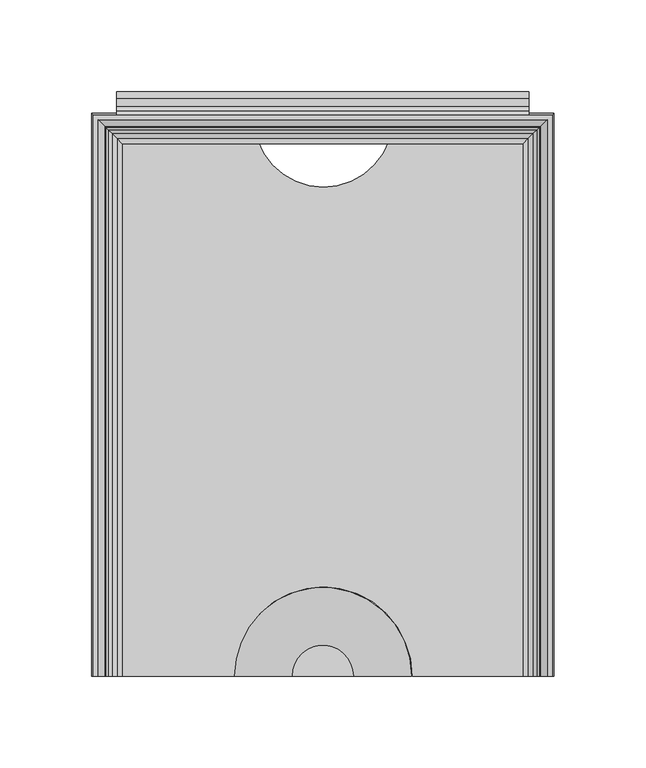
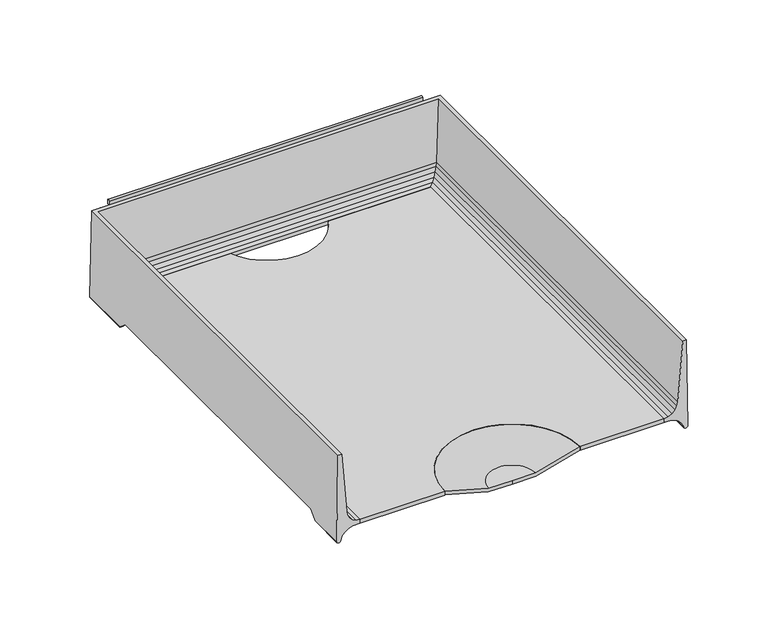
"""IFC4 building model written with IfcOpenShell, lengths in millimetres: furniture geometry."""

from ifc_helpers import new_model, si_unit, point, frame, frame_2d, origin, place, context, project, spatial, polyline, circle_curve, ellipse_curve, trimmed, segment, composite_curve, outline, extrude, source, transform, mapped, element, save
from ifc_brep_helpers import plane_surface, cylinder_surface, revolved_surface, advanced_brep


def furniture_a2665887(model_context):
    return source(origin(), model_context, "Body", "SolidModel", [
        advanced_brep(
        [(126.0820502, -154.0206082, 798.2007489), (125.1325529, -154.0206082, 863.6001914), (122.4547921, -154.0206082, 863.6001914), (118.8379747, -154.0206082, 818.8131003), (118.4123648, -154.0206082, 816.0796052), (117.0774354, -154.0206082, 813.3785664), (114.9656457, -154.0206082, 811.2296015), (112.28832, -154.0206082, 809.8477261), (109.3133381, -154.0206082, 809.3712052), (109.3133381, -154.0206082, 806.5490971), (114.5666739, -154.0206082, 806.3560987), (117.605351, -154.0206082, 805.2997218), (120.2416, -154.0206082, 803.4558822), (122.2762142, -154.0206082, 800.9639079), (123.1625518, -154.0206082, 797.9206655), (126.0820502, -127.6379698, 798.2007489), (126.0026181, -121.5231874, 803.671872), (126.0026181, 109.0611937, 803.671872), (126.0820502, 115.1759816, 798.2007489), (126.0820502, 153.036442, 798.2007489), (125.1325529, 152.0869447, 863.6001914), (-125.1325529, 152.0869447, 863.6001914), (-125.1325529, -154.0206082, 863.6001914), (-122.4547921, -154.0206082, 863.6001914), (-122.4547921, 149.4091839, 863.6001914), (122.4547921, 149.4091839, 863.6001914), (118.8379747, 145.7923665, 818.8131003), (118.4123648, 145.3667566, 816.0796052), (117.0774354, 144.0318272, 813.3785664), (114.9656457, 141.9200375, 811.2296015), (112.28832, 139.2427118, 809.8477261), (109.3133381, 136.2677299, 809.3712052), (109.3133381, 136.2677299, 806.5490971), (114.5666739, 141.5210656, 806.3560987), (117.605351, 144.5597428, 805.2997218), (120.2416, 147.1959918, 803.4558822), (120.2416, 109.3025941, 803.4558822), (119.9327864, 109.0611937, 803.671872), (119.9327864, -121.5231874, 803.671872), (120.2416, -121.7645876, 803.4558822), (122.2762142, -124.5497344, 800.9639079), (122.2762142, 149.230606, 800.9639079), (122.2762142, 112.0877435, 800.9639079), (123.1625518, -127.9510041, 797.9206655), (123.1625518, 150.1169436, 797.9206655), (123.1625518, 115.4890162, 797.9206655), (-126.0820502, 153.036442, 798.2007489), (-118.8379747, 145.7923665, 818.8131003), (-118.4123648, 145.3667566, 816.0796052), (-117.0774354, 144.0318272, 813.3785664), (-114.9656457, 141.9200375, 811.2296015), (-112.28832, 139.2427118, 809.8477261), (-109.3133381, 136.2677299, 809.3712052), (-109.3133381, 136.2677299, 806.5490971), (-114.5666739, 141.5210656, 806.3560987), (-117.605351, 144.5597428, 805.2997218), (-120.2416, 147.1959918, 803.4558822), (-122.2762142, 149.230606, 800.9639079), (-123.1625518, 150.1169436, 797.9206655), (-126.0820502, -154.0206082, 798.2007489), (-123.1625518, -154.0206082, 797.9206655), (-122.2762142, -154.0206082, 800.9639079), (-120.2416, -154.0206082, 803.4558822), (-117.605351, -154.0206082, 805.2997218), (-114.5666739, -154.0206082, 806.3560987), (-109.3133381, -154.0206082, 806.5490971), (-109.3133381, -154.0206082, 809.3712052), (-112.28832, -154.0206082, 809.8477261), (-114.9656457, -154.0206082, 811.2296015), (-117.0774354, -154.0206082, 813.3785664), (-118.4123648, -154.0206082, 816.0796052), (-118.8379747, -154.0206082, 818.8131003), (-126.0820502, 115.1759816, 798.2007489), (-126.0026181, 109.0611937, 803.671872), (-126.0026181, -121.5231874, 803.671872), (-126.0820502, -127.6379698, 798.2007489), (-120.2416, -121.7645876, 803.4558822), (-119.9327864, -121.5231874, 803.671872), (-119.9327864, 109.0611937, 803.671872), (-120.2416, 109.3025941, 803.4558822), (-122.2762142, 112.0877435, 800.9639079), (-122.2762142, -124.5497344, 800.9639079), (-123.1625518, 115.4890162, 797.9206655), (-123.1625518, -127.9510041, 797.9206655)],
        [
            (0, 1),
            (1, 2),
            (2, 3),
            (3, 4),
            (4, 5),
            (5, 6),
            (6, 7),
            (7, 8),
            (8, 9),
            (9, 10),
            (10, 11),
            (11, 12),
            (12, 13),
            (13, 14),
            (14, 0, circle_curve(frame((124.5859452, -154.0206082, 798.4396685), z_axis=(0.0, -1.0, 0.0), x_axis=(-1.0, 0.0, 0.0)), 1.515062)),
            (0, 15),
            (15, 16),
            (16, 17),
            (17, 18),
            (18, 19),
            (19, 20),
            (20, 1),
            (20, 21),
            (21, 22),
            (22, 23),
            (23, 24),
            (24, 25),
            (25, 2),
            (25, 26),
            (26, 3),
            (26, 27),
            (27, 4),
            (27, 28),
            (28, 5),
            (28, 29),
            (29, 6),
            (29, 30),
            (30, 7),
            (30, 31),
            (31, 8),
            (31, 32),
            (32, 9),
            (32, 33),
            (33, 10),
            (33, 34),
            (34, 11),
            (34, 35),
            (35, 36),
            (36, 37),
            (37, 38),
            (38, 39),
            (39, 12),
            (39, 40),
            (40, 13),
            (35, 41),
            (41, 42),
            (42, 36),
            (40, 43),
            (43, 14),
            (41, 44),
            (44, 45),
            (45, 42),
            (43, 15, ellipse_curve(frame((124.5859452, -127.3709422, 798.4396685), z_axis=(0.0, -0.6667949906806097, 0.7452411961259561), x_axis=(0.0, -0.7452411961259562, -0.6667949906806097)), 2.2721556, 1.515062)),
            (44, 19, ellipse_curve(frame((124.5859452, 151.540337, 798.4396685), z_axis=(0.7071067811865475, -0.7071067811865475, 0.0), x_axis=(-0.7071067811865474, -0.7071067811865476, 0.0)), 2.1426212, 1.515062)),
            (18, 45, ellipse_curve(frame((124.5859452, 114.9089538, 798.4396685), z_axis=(0.0, 0.6667946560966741, 0.7452414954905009), x_axis=(0.0, -0.7452414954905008, 0.6667946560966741)), 2.2721567, 1.515062)),
            (19, 46),
            (46, 21),
            (24, 47),
            (47, 26),
            (47, 48),
            (48, 27),
            (48, 49),
            (49, 28),
            (49, 50),
            (50, 29),
            (50, 51),
            (51, 30),
            (51, 52),
            (52, 31),
            (52, 53),
            (53, 32),
            (53, 54),
            (54, 33),
            (54, 55),
            (55, 34),
            (55, 56),
            (56, 35),
            (56, 57),
            (57, 41),
            (57, 58),
            (58, 44),
            (58, 46, ellipse_curve(frame((-124.5859452, 151.540337, 798.4396685), z_axis=(0.7071067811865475, 0.7071067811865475, 0.0), x_axis=(0.7071067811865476, -0.7071067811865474, 0.0)), 2.1426212, 1.515062)),
            (22, 59),
            (59, 60, circle_curve(frame((-124.5859452, -154.0206082, 798.4396685), z_axis=(0.0, -1.0, 0.0), x_axis=(1.0, 0.0, 0.0)), 1.515062)),
            (60, 61),
            (61, 62),
            (62, 63),
            (63, 64),
            (64, 65),
            (65, 66),
            (66, 67),
            (67, 68),
            (68, 69),
            (69, 70),
            (70, 71),
            (71, 23),
            (46, 72),
            (72, 73),
            (73, 74),
            (74, 75),
            (75, 59),
            (71, 47),
            (70, 48),
            (69, 49),
            (68, 50),
            (67, 51),
            (66, 52),
            (65, 53),
            (64, 54),
            (63, 55),
            (62, 76),
            (76, 77),
            (77, 78),
            (78, 79),
            (79, 56),
            (79, 80),
            (80, 57),
            (61, 81),
            (81, 76),
            (80, 82),
            (82, 58),
            (60, 83),
            (83, 81),
            (82, 72, ellipse_curve(frame((-124.5859452, 114.9089538, 798.4396685), z_axis=(0.0, 0.6667946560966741, 0.7452414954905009), x_axis=(0.0, 0.7452414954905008, -0.6667946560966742)), 2.2721567, 1.515062)),
            (75, 83, ellipse_curve(frame((-124.5859452, -127.3709422, 798.4396685), z_axis=(0.0, -0.6667949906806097, 0.7452411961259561), x_axis=(0.0, 0.745241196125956, 0.6667949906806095)), 2.2721556, 1.515062)),
            (38, 16),
            (74, 77),
            (37, 17),
            (73, 78),
        ],
        [
            plane_surface(frame((127.0, -154.0206082, 796.925), z_axis=(0.0, -1.0, 0.0), x_axis=(0.0, 0.0, 1.0))),
            plane_surface(frame((126.0820502, -154.0206082, 798.2007489), z_axis=(0.9998946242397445, 0.0, 0.014516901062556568), x_axis=(0.0, 1.0, 0.0))),
            plane_surface(frame((125.1325529, -154.0206082, 863.6001914), z_axis=(0.0, 0.0, 1.0), x_axis=(0.0, 1.0, 0.0))),
            plane_surface(frame((122.4547921, -154.0206082, 863.6001914), z_axis=(-0.9967551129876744, 0.0, 0.08049375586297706), x_axis=(0.0, 1.0, 0.0))),
            plane_surface(frame((118.8379747, -154.0206082, 818.8131003), z_axis=(-0.9880945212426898, 0.0, 0.15384803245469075), x_axis=(0.0, 1.0, 0.0))),
            plane_surface(frame((118.4123648, -154.0206082, 816.0796052), z_axis=(-0.8964873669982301, 0.0, 0.44306929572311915), x_axis=(0.0, 1.0, 0.0))),
            plane_surface(frame((117.0774354, -154.0206082, 813.3785664), z_axis=(-0.7132491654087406, 0.0, 0.7009105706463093), x_axis=(0.0, 1.0, 0.0))),
            plane_surface(frame((114.9656457, -154.0206082, 811.2296015), z_axis=(-0.45865074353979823, 0.0, 0.8886166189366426), x_axis=(0.0, 1.0, 0.0))),
            plane_surface(frame((112.28832, -154.0206082, 809.8477261), z_axis=(-0.15816001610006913, 0.0, 0.987413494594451), x_axis=(0.0, 1.0, 0.0))),
            plane_surface(frame((109.3133381, -154.0206082, 809.3712052), z_axis=(-1.0, 0.0, 0.0), x_axis=(0.0, 1.0, 0.0))),
            plane_surface(frame((109.3133381, -154.0206082, 806.5490971), z_axis=(-0.036713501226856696, 0.0, -0.9993258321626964), x_axis=(0.0, 1.0, 0.0))),
            plane_surface(frame((114.5666739, -154.0206082, 806.3560987), z_axis=(-0.3283669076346, 0.0, -0.9445502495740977), x_axis=(0.0, 1.0, 0.0))),
            plane_surface(frame((117.605351, -154.0206082, 805.2997218), z_axis=(-0.5731421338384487, 0.0, -0.819455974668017), x_axis=(0.0, 1.0, 0.0))),
            plane_surface(frame((120.2416, -154.0206082, 803.4558822), z_axis=(-0.77460799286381, 0.0, -0.6324416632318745), x_axis=(0.0, 1.0, 0.0))),
            plane_surface(frame((122.2762142, -154.0206082, 800.9639079), z_axis=(-0.9601080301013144, 0.0, -0.2796293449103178), x_axis=(0.0, 1.0, 0.0))),
            cylinder_surface(frame((124.5859452, -154.0206082, 798.4396685), z_axis=(0.0, -1.0, 0.0), x_axis=(-1.0, 0.0, 0.0)), 1.515062),
            plane_surface(frame((126.0820502, 153.036442, 798.2007489), z_axis=(0.0, 0.9998946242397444, 0.014516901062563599), x_axis=(-1.0, 0.0, 0.0))),
            plane_surface(frame((122.4547921, 149.4091839, 863.6001914), z_axis=(0.0, -0.9967551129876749, 0.08049375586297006), x_axis=(-1.0, 0.0, 0.0))),
            plane_surface(frame((118.8379747, 145.7923665, 818.8131003), z_axis=(0.0, -0.9880945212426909, 0.15384803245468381), x_axis=(-1.0, 0.0, 0.0))),
            plane_surface(frame((118.4123648, 145.3667566, 816.0796052), z_axis=(0.0, -0.8964873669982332, 0.4430692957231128), x_axis=(-1.0, 0.0, 0.0))),
            plane_surface(frame((117.0774354, 144.0318272, 813.3785664), z_axis=(0.0, -0.7132491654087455, 0.7009105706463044), x_axis=(-1.0, 0.0, 0.0))),
            plane_surface(frame((114.9656457, 141.9200375, 811.2296015), z_axis=(0.0, -0.4586507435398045, 0.8886166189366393), x_axis=(-1.0, 0.0, 0.0))),
            plane_surface(frame((112.28832, 139.2427118, 809.8477261), z_axis=(0.0, -0.15816001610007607, 0.9874134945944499), x_axis=(-1.0, 0.0, 0.0))),
            plane_surface(frame((109.3133381, 136.2677299, 809.3712052), z_axis=(0.0, -1.0, 0.0), x_axis=(-1.0, 0.0, 0.0))),
            plane_surface(frame((109.3133381, 136.2677299, 806.5490971), z_axis=(0.0, -0.03671350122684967, -0.9993258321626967), x_axis=(-1.0, 0.0, 0.0))),
            plane_surface(frame((114.5666739, 141.5210656, 806.3560987), z_axis=(0.0, -0.32836690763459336, -0.9445502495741), x_axis=(-1.0, 0.0, 0.0))),
            plane_surface(frame((117.605351, 144.5597428, 805.2997218), z_axis=(0.0, -0.5731421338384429, -0.819455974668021), x_axis=(-1.0, 0.0, 0.0))),
            plane_surface(frame((120.2416, 147.1959918, 803.4558822), z_axis=(0.0, -0.7746079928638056, -0.6324416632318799), x_axis=(-1.0, 0.0, 0.0))),
            plane_surface(frame((122.2762142, 149.230606, 800.9639079), z_axis=(0.0, -0.9601080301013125, -0.27962934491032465), x_axis=(-1.0, 0.0, 0.0))),
            cylinder_surface(frame((127.0, 151.540337, 798.4396685), z_axis=(1.0, 0.0, 0.0), x_axis=(0.0, -1.0, 0.0)), 1.515062),
            plane_surface(frame((-127.0, -154.0206082, 796.925), z_axis=(0.0, -1.0, 0.0), x_axis=(0.0, 0.0, 1.0))),
            plane_surface(frame((-126.0820502, 153.036442, 798.2007489), z_axis=(-0.9998946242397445, 0.0, 0.014516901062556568), x_axis=(0.0, -1.0, 0.0))),
            plane_surface(frame((-122.4547921, 149.4091839, 863.6001914), z_axis=(0.9967551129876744, 0.0, 0.08049375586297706), x_axis=(0.0, -1.0, 0.0))),
            plane_surface(frame((-118.8379747, 145.7923665, 818.8131003), z_axis=(0.9880945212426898, 0.0, 0.15384803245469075), x_axis=(0.0, -1.0, 0.0))),
            plane_surface(frame((-118.4123648, 145.3667566, 816.0796052), z_axis=(0.8964873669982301, 0.0, 0.44306929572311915), x_axis=(0.0, -1.0, 0.0))),
            plane_surface(frame((-117.0774354, 144.0318272, 813.3785664), z_axis=(0.7132491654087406, 0.0, 0.7009105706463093), x_axis=(0.0, -1.0, 0.0))),
            plane_surface(frame((-114.9656457, 141.9200375, 811.2296015), z_axis=(0.45865074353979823, 0.0, 0.8886166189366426), x_axis=(0.0, -1.0, 0.0))),
            plane_surface(frame((-112.28832, 139.2427118, 809.8477261), z_axis=(0.15816001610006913, 0.0, 0.987413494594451), x_axis=(0.0, -1.0, 0.0))),
            plane_surface(frame((-109.3133381, 136.2677299, 809.3712052), z_axis=(1.0, 0.0, 0.0), x_axis=(0.0, -1.0, 0.0))),
            plane_surface(frame((-109.3133381, 136.2677299, 806.5490971), z_axis=(0.036713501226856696, 0.0, -0.9993258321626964), x_axis=(0.0, -1.0, 0.0))),
            plane_surface(frame((-114.5666739, 141.5210656, 806.3560987), z_axis=(0.3283669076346, 0.0, -0.9445502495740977), x_axis=(0.0, -1.0, 0.0))),
            plane_surface(frame((-117.605351, 144.5597428, 805.2997218), z_axis=(0.5731421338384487, 0.0, -0.819455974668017), x_axis=(0.0, -1.0, 0.0))),
            plane_surface(frame((-120.2416, 147.1959918, 803.4558822), z_axis=(0.77460799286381, 0.0, -0.6324416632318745), x_axis=(0.0, -1.0, 0.0))),
            plane_surface(frame((-122.2762142, 149.230606, 800.9639079), z_axis=(0.9601080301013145, 0.0, -0.2796293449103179), x_axis=(0.0, -1.0, 0.0))),
            cylinder_surface(frame((-124.5859452, 153.9543918, 798.4396685), z_axis=(0.0, 1.0, 0.0), x_axis=(1.0, 0.0, 0.0)), 1.515062),
            plane_surface(frame((-127.0, -130.1695728, 795.9356296), z_axis=(0.0, 0.6667949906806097, -0.7452411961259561), x_axis=(1.0, 0.0, 0.0))),
            plane_surface(frame((-127.0, -121.5231874, 803.671872), z_axis=(0.0, 0.0, -1.0), x_axis=(1.0, 0.0, 0.0))),
            plane_surface(frame((-127.0, 109.0611937, 803.671872), z_axis=(0.0, -0.6667946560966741, -0.7452414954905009), x_axis=(1.0, 0.0, 0.0))),
        ],
        [
            (0, [[1, 2, 3, 4, 5, 6, 7, 8, 9, 10, 11, 12, 13, 14, 15]]),
            (1, [[-1, 16, 17, 18, 19, 20, 21, 22]]),
            (2, [[-2, -22, 23, 24, 25, 26, 27, 28]]),
            (3, [[-3, -28, 29, 30]]),
            (4, [[-4, -30, 31, 32]]),
            (5, [[-5, -32, 33, 34]]),
            (6, [[-6, -34, 35, 36]]),
            (7, [[-7, -36, 37, 38]]),
            (8, [[-8, -38, 39, 40]]),
            (9, [[-9, -40, 41, 42]]),
            (10, [[-10, -42, 43, 44]]),
            (11, [[-11, -44, 45, 46]]),
            (12, [[-12, -46, 47, 48, 49, 50, 51, 52]]),
            (13, [[-13, -52, 53, 54]]),
            (13, [[55, 56, 57, -48]]),
            (14, [[-14, -54, 58, 59]]),
            (14, [[60, 61, 62, -56]]),
            (15, [[-15, -59, 63, -16]]),
            (15, [[64, -20, 65, -61]]),
            (16, [[-21, 66, 67, -23]]),
            (17, [[-27, 68, 69, -29]]),
            (18, [[-31, -69, 70, 71]]),
            (19, [[-33, -71, 72, 73]]),
            (20, [[-35, -73, 74, 75]]),
            (21, [[-37, -75, 76, 77]]),
            (22, [[-39, -77, 78, 79]]),
            (23, [[-41, -79, 80, 81]]),
            (24, [[-43, -81, 82, 83]]),
            (25, [[-45, -83, 84, 85]]),
            (26, [[-47, -85, 86, 87]]),
            (27, [[-55, -87, 88, 89]]),
            (28, [[-60, -89, 90, 91]]),
            (29, [[-64, -91, 92, -66]]),
            (30, [[-25, 93, 94, 95, 96, 97, 98, 99, 100, 101, 102, 103, 104, 105, 106]]),
            (31, [[-24, -67, 107, 108, 109, 110, 111, -93]]),
            (32, [[-26, -106, 112, -68]]),
            (33, [[-70, -112, -105, 113]]),
            (34, [[-72, -113, -104, 114]]),
            (35, [[-74, -114, -103, 115]]),
            (36, [[-76, -115, -102, 116]]),
            (37, [[-78, -116, -101, 117]]),
            (38, [[-80, -117, -100, 118]]),
            (39, [[-82, -118, -99, 119]]),
            (40, [[-84, -119, -98, 120]]),
            (41, [[-86, -120, -97, 121, 122, 123, 124, 125]]),
            (42, [[-88, -125, 126, 127]]),
            (42, [[-96, 128, 129, -121]]),
            (43, [[-90, -127, 130, 131]]),
            (43, [[-95, 132, 133, -128]]),
            (44, [[-92, -131, 134, -107]]),
            (44, [[-94, -111, 135, -132]]),
            (45, [[136, -17, -63, -58, -53, -51]]),
            (45, [[137, -122, -129, -133, -135, -110]]),
            (46, [[-136, -50, 138, -18]]),
            (46, [[-137, -109, 139, -123]]),
            (47, [[-138, -49, -57, -62, -65, -19]]),
            (47, [[-139, -108, -134, -130, -126, -124]]),
        ],
    ),
        extrude(outline(composite_curve([segment(polyline([(-109.3647805, 138.2769393), (-35.6610422, 138.2769393)]), True, "CONTINUOUS"), segment(trimmed(circle_curve(frame_2d((0.3369133, 150.6584166)), 38.0677525), [point((-35.6610422, 138.2769393))], [point((36.3348688, 138.2769393))], True, "CARTESIAN"), True, "CONTINUOUS"), segment(polyline([(36.3348688, 138.2769393), (109.6504969, 138.2769393), (109.6504969, -153.9875), (48.9112184, -153.9875)]), True, "CONTINUOUS"), segment(trimmed(circle_curve(frame_2d((0.2842795, -153.9323196)), 48.6269702), [point((48.9112184, -153.9875))], [point((-48.3426595, -153.9875))], True, "CARTESIAN"), True, "CONTINUOUS"), segment(polyline([(-48.3426595, -153.9875), (-109.3647805, -153.9875), (-109.3647805, 138.2769393)]), True, "CONTINUOUS")], self_intersect=False)), frame((0.0, 0.0, 806.5314677), z_axis=(0.0, 0.0, 1.0), x_axis=(1.0, 0.0, 0.0)), (0.0, 0.0, 1.0), 2.8395461),
        extrude(outline(composite_curve([segment(trimmed(circle_curve(frame_2d((162.7186949, 847.7707343)), 1.9049988), [point((164.6236937, 847.7707343))], [point((160.8136962, 847.7707343))], False, "CARTESIAN"), True, "CONTINUOUS"), segment(polyline([(160.8136962, 847.7707343), (160.8136962, 851.1997311), (160.0516969, 851.9617303), (156.4380325, 851.9617303), (152.1427596, 849.6143331), (152.1427596, 858.1191285), (156.4380325, 855.7717312), (160.8136928, 855.7717312)]), True, "CONTINUOUS"), segment(trimmed(circle_curve(frame_2d((160.8136928, 851.9617303)), 3.8100009), [point((160.8136928, 855.7717312))], [point((164.6236937, 851.9617303))], False, "CARTESIAN"), True, "CONTINUOUS"), segment(polyline([(164.6236937, 851.9617303), (164.6236937, 847.7707343)]), True, "CONTINUOUS")], self_intersect=False)), frame((-112.5397809, 0.0, 0.0), z_axis=(1.0, 0.0, 0.0), x_axis=(0.0, 1.0, 0.0)), (0.0, 0.0, 1.0), 225.0795617),
        advanced_brep(
        [(-16.8929028, -153.9875, 800.496875), (-48.4614622, -153.9875, 809.4045432), (-48.4614622, -153.9875, 806.8130018), (-16.9249292, -153.9875, 797.9143704), (0.0, -153.9875, 797.9143704), (0.0, -153.9875, 800.496875), (16.8929028, -153.9875, 800.496875), (16.9249292, -153.9875, 797.9143704), (48.4614622, -153.9875, 806.8130018), (48.4614622, -153.9875, 809.4045432)],
        [
            (0, 1),
            (1, 2),
            (2, 3),
            (3, 4),
            (4, 5),
            (5, 0),
            (6, 5),
            (4, 7),
            (7, 8),
            (8, 9),
            (9, 6),
            (9, 1, circle_curve(frame((0.0, -153.9875, 809.4045432), z_axis=(0.0, 0.0, 1.0), x_axis=(-1.0, 0.0, 0.0)), 48.4614622)),
            (0, 6, circle_curve(frame((0.0, -153.9875, 800.496875), z_axis=(0.0, 0.0, -1.0), x_axis=(-1.0, 0.0, 0.0)), 16.8929028)),
            (8, 2, circle_curve(frame((0.0, -153.9875, 806.8130018), z_axis=(0.0, 0.0, 1.0), x_axis=(-1.0, 0.0, 0.0)), 48.4614622)),
            (7, 3, circle_curve(frame((0.0, -153.9875, 797.9143704), z_axis=(0.0, 0.0, 1.0), x_axis=(-1.0, 0.0, 0.0)), 16.9249292)),
        ],
        [
            plane_surface(frame((0.0, -153.9875, 796.925), z_axis=(0.0, -1.0, 0.0), x_axis=(-1.0, 0.0, 0.0))),
            plane_surface(frame((0.0, -153.9875, 796.925), z_axis=(0.0, -1.0, 0.0), x_axis=(1.0, 0.0, 0.0))),
            revolved_surface(polyline([(-48.4614622, -153.9875, 809.4045432), (-16.8929028, -153.9875, 800.496875)]), (0.0, -153.9875, 796.925), (0.0, 0.0, 1.0)),
            cylinder_surface(frame((0.0, -153.9875, 796.925), z_axis=(0.0, 0.0, 1.0), x_axis=(-1.0, 0.0, 0.0)), 48.4614622),
            revolved_surface(polyline([(-16.9249292, -153.9875, 797.9143704), (-48.4614622, -153.9875, 806.8130018)]), (0.0, -153.9875, 796.925), (0.0, 0.0, 1.0)),
            plane_surface(frame((0.0, -153.9875, 797.9143704), z_axis=(0.0, 0.0, -1.0), x_axis=(-1.0, 0.0, 0.0))),
            plane_surface(frame((0.0, -153.9875, 800.496875), z_axis=(0.0, 0.0, 1.0), x_axis=(-1.0, 0.0, 0.0))),
        ],
        [
            (0, [[1, 2, 3, 4, 5, 6]]),
            (1, [[7, -5, 8, 9, 10, 11]]),
            (2, [[12, -1, 13, -11]]),
            (3, [[14, -2, -12, -10]]),
            (4, [[15, -3, -14, -9]]),
            (5, [[-4, -15, -8]]),
            (6, [[-13, -6, -7]]),
        ],
    ),
        extrude(outline(composite_curve([segment(polyline([(153.9875, 863.6), (152.1427596, 863.6), (152.1427596, 866.4315333)]), True, "CONTINUOUS"), segment(trimmed(circle_curve(frame_2d((153.0651298, 866.1262665)), 0.9715733), [point((152.1427596, 866.4315333))], [point((153.9875, 866.4315333))], False, "CARTESIAN"), True, "CONTINUOUS"), segment(polyline([(153.9875, 866.4315333), (153.9875, 863.6)]), True, "CONTINUOUS")], self_intersect=False)), frame((-112.5397809, 0.0, 0.0), z_axis=(1.0, 0.0, 0.0), x_axis=(0.0, 1.0, 0.0)), (0.0, 0.0, 1.0), 225.0795617),
    ])


if __name__ == "__main__":
    model = new_model("IFC4")
    model_context = context("Model", 3, world=origin())
    ifc_project = project(units=[si_unit("LENGTHUNIT", "METRE", prefix="MILLI")], contexts=[model_context])
    site = spatial("IfcSite", under=ifc_project)
    building = spatial("IfcBuilding", under=site)
    placement = place(None, origin())
    furniture_shape = furniture_a2665887(model_context)
    element("IfcFurniture", 1, ObjectType="HermanMiller_ThrivePortfolio_Y7216_PaperTray : 3\"H x 12\"D x 10\"W", at=placement, inside=building, context=model_context, shape_type="MappedRepresentation", body=[
        mapped(furniture_shape, transform((0.0, 0.0, 0.0), x_axis=(1.0, 0.0, 0.0), y_axis=(0.0, 1.0, 0.0), z_axis=(0.0, 0.0, 1.0))),
    ])
    save(model, "model.ifc")
